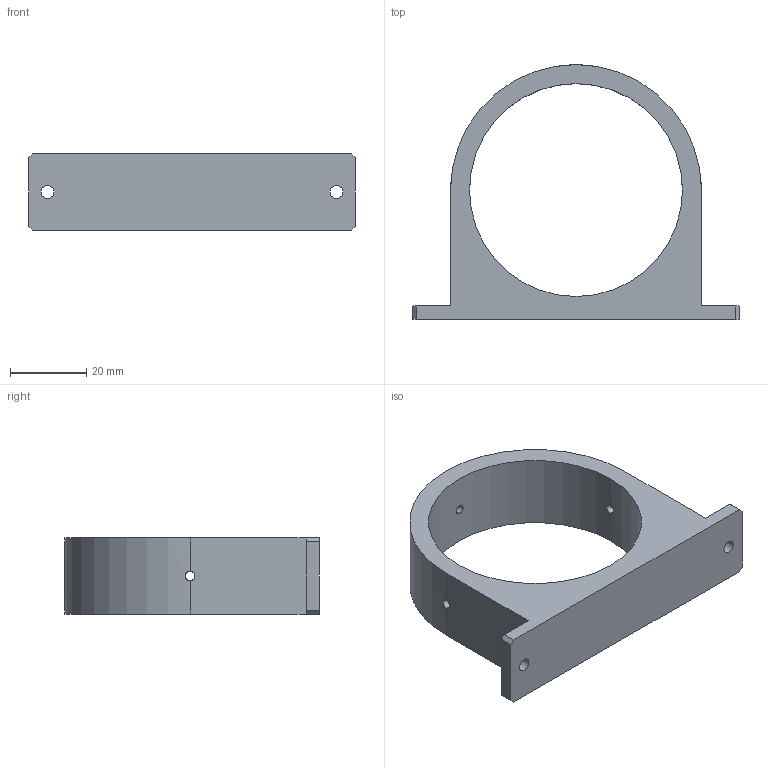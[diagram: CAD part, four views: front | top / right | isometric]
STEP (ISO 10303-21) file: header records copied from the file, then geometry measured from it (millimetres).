
FILE_DESCRIPTION (( 'STEP AP214' ), '1' );
FILE_NAME ('芠噩假蚾釱.STEP', '2025-08-06T07:29:52', ( '' ), ( '' ), 'SwSTEP 2.0', 'SolidWorks 2024', '' );
FILE_SCHEMA (( 'AUTOMOTIVE_DESIGN' ));
Length unit declared in the file: millimetre
Products named in the file (1): 筒镜安装座
Bounding box: 86 x 67 x 20 mm (x, y, z)
Volume: 31087.5 mm3; surface area: 12310 mm2
Topology: 1 solids, 1 shells, 26 faces, 76 edges, 48 vertices
Faces by surface type: cylinder 13, plane 13
Entity records: 1065 total; most frequent: CARTESIAN_POINT 337, ORIENTED_EDGE 152, DIRECTION 136, EDGE_CURVE 76, LINE 50, VECTOR 50, VERTEX_POINT 48, AXIS2_PLACEMENT_3D 43
